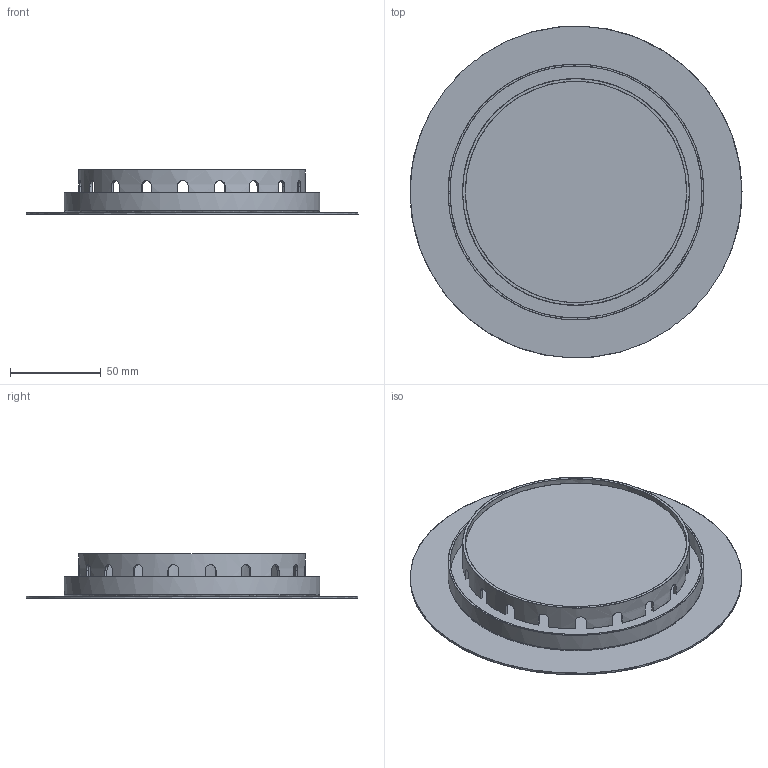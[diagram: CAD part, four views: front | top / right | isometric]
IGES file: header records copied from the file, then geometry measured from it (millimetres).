
Start section: SolidWorks IGES file using NURBS representation for surfaces
Global section: file name: Z:\Modele 3D_WWW\_CAMELEON\PUSZKI WWW\CANOPY-A-MINI-10017-10018\CANOPY-A-MINI-10017-10018.IGS; native system: SolidWorks 2021; preprocessor: SolidWorks 2021; author: gabriela.tworek; date: 211208.084739; units: millimetre
Bounding box: 183 x 182.89 x 24.5 mm (x, y, z)
Surface area: 126353.3 mm2 (no closed solid volume)
Topology: 0 solids, 0 shells, 91 faces, 509 edges, 502 vertices
Faces by surface type: bspline 91
